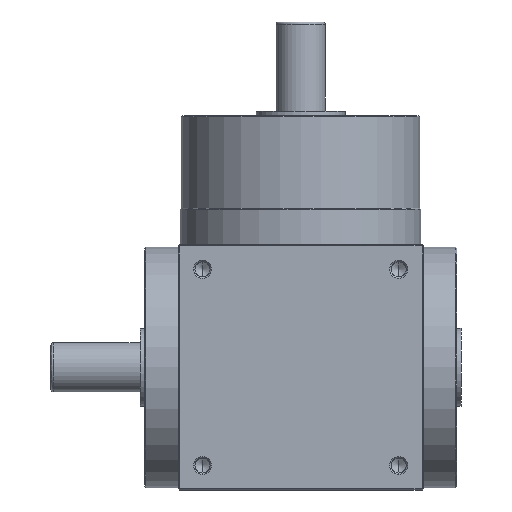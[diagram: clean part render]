
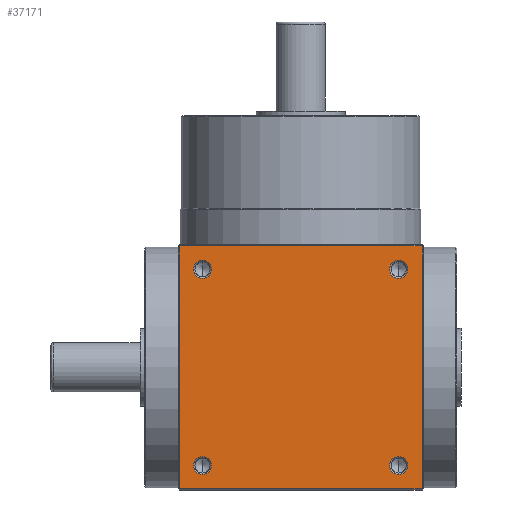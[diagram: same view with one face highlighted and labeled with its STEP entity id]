
A CAD part, front view. The second image highlights one B-rep face of the part: STEP entity #37171.
In plain terms, the highlighted planar face has unit normal (0, -1, 0).
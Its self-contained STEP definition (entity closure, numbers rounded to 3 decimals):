
#307 = CIRCLE ( 'NONE', #9615, 4.025 ) ;
#883 = DIRECTION ( 'NONE',  ( 0., -1., 0. ) ) ;
#1220 = EDGE_CURVE ( 'NONE', #8484, #43674, #32830, .T. ) ;
#1297 = EDGE_LOOP ( 'NONE', ( #12735, #18747 ) ) ;
#2550 = AXIS2_PLACEMENT_3D ( 'NONE', #45163, #45115, #45016 ) ;
#2886 = CARTESIAN_POINT ( 'NONE',  ( -44., -55., 11. ) ) ;
#3013 = DIRECTION ( 'NONE',  ( 0., 0., 1. ) ) ;
#3035 = EDGE_LOOP ( 'NONE', ( #6294, #13987 ) ) ;
#3184 = VERTEX_POINT ( 'NONE', #30160 ) ;
#3728 = EDGE_LOOP ( 'NONE', ( #18310, #45165, #38199, #27446 ) ) ;
#4494 = CARTESIAN_POINT ( 'NONE',  ( -44., -55., 99. ) ) ;
#4869 = CARTESIAN_POINT ( 'NONE',  ( 44., -55., 11. ) ) ;
#6253 = AXIS2_PLACEMENT_3D ( 'NONE', #35703, #35673, #35624 ) ;
#6294 = ORIENTED_EDGE ( 'NONE', *, *, #1220, .F. ) ;
#6296 = FACE_BOUND ( 'NONE', #13318, .T. ) ;
#6433 = DIRECTION ( 'NONE',  ( 1., 0., 0. ) ) ;
#6523 = EDGE_CURVE ( 'NONE', #37531, #11638, #12988, .T. ) ;
#6646 = CIRCLE ( 'NONE', #6253, 4.025 ) ;
#6775 = EDGE_CURVE ( 'NONE', #43674, #8484, #6646, .T. ) ;
#7142 = VECTOR ( 'NONE', #35202, 1000. ) ;
#7251 = AXIS2_PLACEMENT_3D ( 'NONE', #40525, #19579, #44051 ) ;
#7552 = VERTEX_POINT ( 'NONE', #13695 ) ;
#7786 = CIRCLE ( 'NONE', #24945, 4.025 ) ;
#8033 = DIRECTION ( 'NONE',  ( 1., 0., 0. ) ) ;
#8398 = DIRECTION ( 'NONE',  ( 1., 0., 0. ) ) ;
#8484 = VERTEX_POINT ( 'NONE', #40293 ) ;
#8940 = AXIS2_PLACEMENT_3D ( 'NONE', #31144, #24263, #3013 ) ;
#9131 = ORIENTED_EDGE ( 'NONE', *, *, #19820, .F. ) ;
#9611 = CARTESIAN_POINT ( 'NONE',  ( -48.025, -55., 11. ) ) ;
#9615 = AXIS2_PLACEMENT_3D ( 'NONE', #22106, #883, #25670 ) ;
#9761 = EDGE_CURVE ( 'NONE', #26843, #37531, #31168, .T. ) ;
#11638 = VERTEX_POINT ( 'NONE', #16183 ) ;
#12604 = DIRECTION ( 'NONE',  ( 0., 0., -1. ) ) ;
#12735 = ORIENTED_EDGE ( 'NONE', *, *, #41259, .F. ) ;
#12988 = LINE ( 'NONE', #40038, #13502 ) ;
#13297 = CARTESIAN_POINT ( 'NONE',  ( 54.5, -55., 110. ) ) ;
#13318 = EDGE_LOOP ( 'NONE', ( #24019, #9131 ) ) ;
#13502 = VECTOR ( 'NONE', #39505, 1000. ) ;
#13695 = CARTESIAN_POINT ( 'NONE',  ( -39.975, -55., 11. ) ) ;
#13987 = ORIENTED_EDGE ( 'NONE', *, *, #6775, .F. ) ;
#14945 = AXIS2_PLACEMENT_3D ( 'NONE', #4869, #29630, #8398 ) ;
#15458 = CIRCLE ( 'NONE', #38905, 4.025 ) ;
#15731 = FACE_BOUND ( 'NONE', #3035, .T. ) ;
#16180 = DIRECTION ( 'NONE',  ( 0., -1., 0. ) ) ;
#16183 = CARTESIAN_POINT ( 'NONE',  ( -54.5, -55., 0.5 ) ) ;
#16826 = FACE_BOUND ( 'NONE', #38088, .T. ) ;
#17105 = CARTESIAN_POINT ( 'NONE',  ( 48.025, -55., 11. ) ) ;
#18310 = ORIENTED_EDGE ( 'NONE', *, *, #21682, .F. ) ;
#18408 = CARTESIAN_POINT ( 'NONE',  ( -55., -55., 109.5 ) ) ;
#18747 = ORIENTED_EDGE ( 'NONE', *, *, #23210, .F. ) ;
#19579 = DIRECTION ( 'NONE',  ( 0., -1., 0. ) ) ;
#19820 = EDGE_CURVE ( 'NONE', #34057, #39356, #29446, .T. ) ;
#20355 = LINE ( 'NONE', #18408, #20842 ) ;
#20842 = VECTOR ( 'NONE', #39403, 1000. ) ;
#21682 = EDGE_CURVE ( 'NONE', #3184, #26843, #20355, .T. ) ;
#22106 = CARTESIAN_POINT ( 'NONE',  ( -44., -55., 99. ) ) ;
#22922 = ORIENTED_EDGE ( 'NONE', *, *, #24172, .F. ) ;
#23210 = EDGE_CURVE ( 'NONE', #41696, #7552, #28879, .T. ) ;
#24019 = ORIENTED_EDGE ( 'NONE', *, *, #28205, .F. ) ;
#24046 = CARTESIAN_POINT ( 'NONE',  ( 39.975, -55., 11. ) ) ;
#24172 = EDGE_CURVE ( 'NONE', #45628, #37281, #7786, .T. ) ;
#24263 = DIRECTION ( 'NONE',  ( 0., 1., 0. ) ) ;
#24945 = AXIS2_PLACEMENT_3D ( 'NONE', #4494, #29258, #8033 ) ;
#25215 = CIRCLE ( 'NONE', #14945, 4.025 ) ;
#25670 = DIRECTION ( 'NONE',  ( 1., 0., 0. ) ) ;
#26292 = CARTESIAN_POINT ( 'NONE',  ( -48.025, -55., 99. ) ) ;
#26843 = VERTEX_POINT ( 'NONE', #34024 ) ;
#27180 = CARTESIAN_POINT ( 'NONE',  ( 54.5, -55., 0.5 ) ) ;
#27446 = ORIENTED_EDGE ( 'NONE', *, *, #9761, .F. ) ;
#27718 = DIRECTION ( 'NONE',  ( 0., -1., 0. ) ) ;
#27871 = CARTESIAN_POINT ( 'NONE',  ( 39.975, -55., 99. ) ) ;
#28205 = EDGE_CURVE ( 'NONE', #39356, #34057, #25215, .T. ) ;
#28879 = CIRCLE ( 'NONE', #37764, 4.025 ) ;
#29258 = DIRECTION ( 'NONE',  ( 0., -1., 0. ) ) ;
#29446 = CIRCLE ( 'NONE', #7251, 4.025 ) ;
#29630 = DIRECTION ( 'NONE',  ( 0., -1., 0. ) ) ;
#29659 = EDGE_CURVE ( 'NONE', #37281, #45628, #307, .T. ) ;
#30160 = CARTESIAN_POINT ( 'NONE',  ( -54.5, -55., 109.5 ) ) ;
#30911 = VECTOR ( 'NONE', #12604, 1000. ) ;
#31144 = CARTESIAN_POINT ( 'NONE',  ( -55., -55., 110. ) ) ;
#31168 = LINE ( 'NONE', #13297, #30911 ) ;
#32325 = ORIENTED_EDGE ( 'NONE', *, *, #29659, .F. ) ;
#32830 = CIRCLE ( 'NONE', #2550, 4.025 ) ;
#33386 = FACE_OUTER_BOUND ( 'NONE', #3728, .T. ) ;
#34024 = CARTESIAN_POINT ( 'NONE',  ( 54.5, -55., 109.5 ) ) ;
#34057 = VERTEX_POINT ( 'NONE', #24046 ) ;
#35202 = DIRECTION ( 'NONE',  ( 0., 0., 1. ) ) ;
#35624 = DIRECTION ( 'NONE',  ( 1., 0., 0. ) ) ;
#35673 = DIRECTION ( 'NONE',  ( 0., -1., 0. ) ) ;
#35703 = CARTESIAN_POINT ( 'NONE',  ( 44., -55., 99. ) ) ;
#37171 = ADVANCED_FACE ( 'NONE', ( #6296, #15731, #16826, #42591, #33386 ), #41594, .F. ) ;
#37276 = CARTESIAN_POINT ( 'NONE',  ( -44., -55., 11. ) ) ;
#37281 = VERTEX_POINT ( 'NONE', #38892 ) ;
#37531 = VERTEX_POINT ( 'NONE', #27180 ) ;
#37764 = AXIS2_PLACEMENT_3D ( 'NONE', #37276, #16180, #40713 ) ;
#38088 = EDGE_LOOP ( 'NONE', ( #32325, #22922 ) ) ;
#38199 = ORIENTED_EDGE ( 'NONE', *, *, #6523, .F. ) ;
#38892 = CARTESIAN_POINT ( 'NONE',  ( -39.975, -55., 99. ) ) ;
#38905 = AXIS2_PLACEMENT_3D ( 'NONE', #2886, #27718, #6433 ) ;
#39356 = VERTEX_POINT ( 'NONE', #17105 ) ;
#39403 = DIRECTION ( 'NONE',  ( 1., 0., 0. ) ) ;
#39505 = DIRECTION ( 'NONE',  ( -1., 0., 0. ) ) ;
#40038 = CARTESIAN_POINT ( 'NONE',  ( -55., -55., 0.5 ) ) ;
#40293 = CARTESIAN_POINT ( 'NONE',  ( 48.025, -55., 99. ) ) ;
#40409 = EDGE_CURVE ( 'NONE', #11638, #3184, #44511, .T. ) ;
#40525 = CARTESIAN_POINT ( 'NONE',  ( 44., -55., 11. ) ) ;
#40713 = DIRECTION ( 'NONE',  ( 1., 0., 0. ) ) ;
#41259 = EDGE_CURVE ( 'NONE', #7552, #41696, #15458, .T. ) ;
#41594 = PLANE ( 'NONE',  #8940 ) ;
#41696 = VERTEX_POINT ( 'NONE', #9611 ) ;
#41973 = CARTESIAN_POINT ( 'NONE',  ( -54.5, -55., 110. ) ) ;
#42591 = FACE_BOUND ( 'NONE', #1297, .T. ) ;
#43674 = VERTEX_POINT ( 'NONE', #27871 ) ;
#44051 = DIRECTION ( 'NONE',  ( 1., 0., 0. ) ) ;
#44511 = LINE ( 'NONE', #41973, #7142 ) ;
#45016 = DIRECTION ( 'NONE',  ( 1., 0., 0. ) ) ;
#45115 = DIRECTION ( 'NONE',  ( 0., -1., 0. ) ) ;
#45163 = CARTESIAN_POINT ( 'NONE',  ( 44., -55., 99. ) ) ;
#45165 = ORIENTED_EDGE ( 'NONE', *, *, #40409, .F. ) ;
#45628 = VERTEX_POINT ( 'NONE', #26292 ) ;
